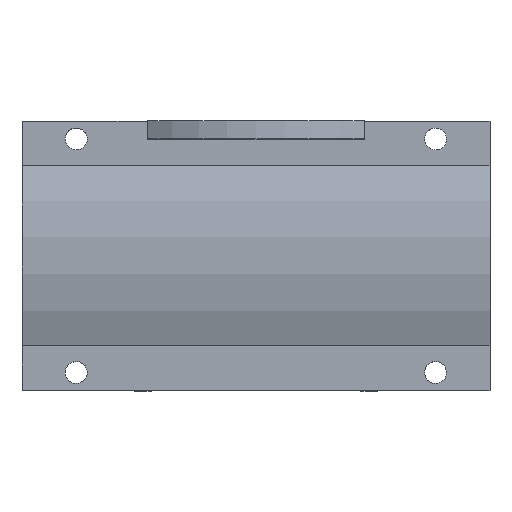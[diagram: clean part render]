
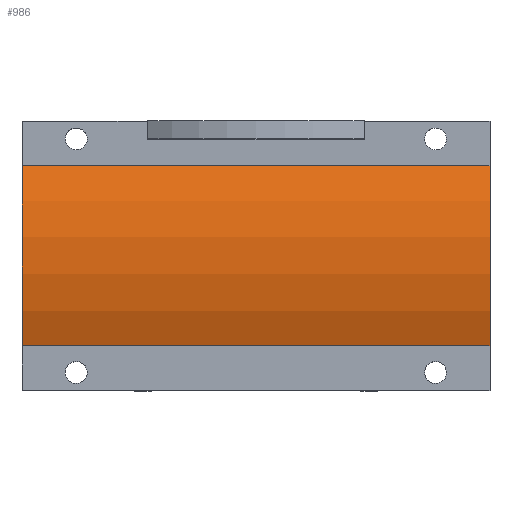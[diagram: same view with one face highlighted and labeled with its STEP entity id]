
A CAD part, top view. The second image highlights one B-rep face of the part: STEP entity #986.
In plain terms, the highlighted cylindrical face has radius 33.02 mm (diameter 66.04 mm), a partial arc.
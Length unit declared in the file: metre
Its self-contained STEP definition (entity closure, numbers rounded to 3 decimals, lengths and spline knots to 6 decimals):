
#44=CIRCLE('',#1081,0.03302);
#45=CIRCLE('',#1082,0.03302);
#55=CYLINDRICAL_SURFACE('',#1080,0.03302);
#79=LINE('',#1406,#164);
#80=LINE('',#1409,#165);
#88=LINE('',#1430,#173);
#89=LINE('',#1432,#174);
#164=VECTOR('',#1143,1.);
#165=VECTOR('',#1144,1.);
#173=VECTOR('',#1158,1.);
#174=VECTOR('',#1159,1.);
#399=ORIENTED_EDGE('',*,*,#517,.T.);
#400=ORIENTED_EDGE('',*,*,#619,.F.);
#401=ORIENTED_EDGE('',*,*,#529,.F.);
#402=ORIENTED_EDGE('',*,*,#528,.F.);
#403=ORIENTED_EDGE('',*,*,#620,.T.);
#404=ORIENTED_EDGE('',*,*,#518,.T.);
#517=EDGE_CURVE('',#648,#649,#79,.T.);
#518=EDGE_CURVE('',#650,#648,#80,.T.);
#528=EDGE_CURVE('',#659,#660,#88,.T.);
#529=EDGE_CURVE('',#660,#661,#89,.T.);
#619=EDGE_CURVE('',#661,#649,#44,.T.);
#620=EDGE_CURVE('',#659,#650,#45,.T.);
#648=VERTEX_POINT('',#1407);
#649=VERTEX_POINT('',#1408);
#650=VERTEX_POINT('',#1410);
#659=VERTEX_POINT('',#1429);
#660=VERTEX_POINT('',#1431);
#661=VERTEX_POINT('',#1433);
#795=EDGE_LOOP('',(#399,#400,#401,#402,#403,#404));
#894=FACE_BOUND('',#795,.T.);
#986=ADVANCED_FACE('',(#894),#55,.T.);
#1080=AXIS2_PLACEMENT_3D('',#1696,#1293,#1294);
#1081=AXIS2_PLACEMENT_3D('',#1697,#1295,#1296);
#1082=AXIS2_PLACEMENT_3D('',#1698,#1297,#1298);
#1143=DIRECTION('',(1.,0.,0.));
#1144=DIRECTION('',(1.,0.,0.));
#1158=DIRECTION('',(1.,0.,0.));
#1159=DIRECTION('',(1.,0.,0.));
#1293=DIRECTION('',(1.,0.,0.));
#1294=DIRECTION('',(0.,0.,-1.));
#1295=DIRECTION('',(1.,0.,0.));
#1296=DIRECTION('',(0.,0.,-1.));
#1297=DIRECTION('',(1.,0.,0.));
#1298=DIRECTION('',(0.,0.,-1.));
#1406=CARTESIAN_POINT('',(-0.020384,-0.03175,0.020384));
#1407=CARTESIAN_POINT('',(-0.020382,-0.03175,0.020384));
#1408=CARTESIAN_POINT('',(0.033084,-0.03175,0.020384));
#1409=CARTESIAN_POINT('',(-0.033082,-0.03175,0.020384));
#1410=CARTESIAN_POINT('',(-0.033082,-0.03175,0.020384));
#1429=CARTESIAN_POINT('',(-0.033082,-0.00635,0.020384));
#1430=CARTESIAN_POINT('',(-0.033082,-0.00635,0.020384));
#1431=CARTESIAN_POINT('',(-0.020382,-0.00635,0.020384));
#1432=CARTESIAN_POINT('',(-0.020384,-0.00635,0.020384));
#1433=CARTESIAN_POINT('',(0.033084,-0.00635,0.020384));
#1696=CARTESIAN_POINT('',(-0.020384,-0.01905,-0.010097));
#1697=CARTESIAN_POINT('',(0.033084,-0.01905,-0.010097));
#1698=CARTESIAN_POINT('',(-0.033084,-0.01905,-0.010097));
